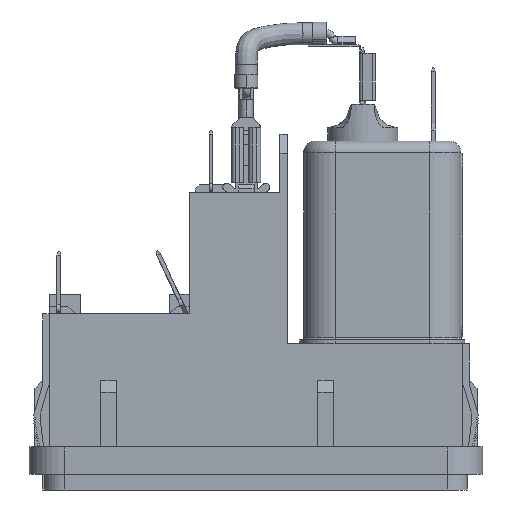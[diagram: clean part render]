
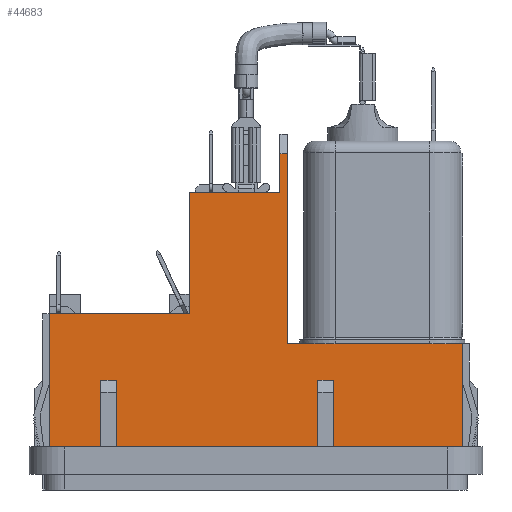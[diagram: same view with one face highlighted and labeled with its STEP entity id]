
A CAD part, left-side view. The second image highlights one B-rep face of the part: STEP entity #44683.
In plain terms, the highlighted planar face has unit normal (-1, 0, 0).
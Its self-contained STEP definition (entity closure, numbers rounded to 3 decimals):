
#31406=CARTESIAN_POINT('',(-13.35,8.55,36.0));
#31407=VERTEX_POINT('',#31406);
#31408=CARTESIAN_POINT('',(-13.35,-3.05,36.0));
#31409=VERTEX_POINT('',#31408);
#31410=CARTESIAN_POINT('',(-13.35,8.55,36.0));
#31411=DIRECTION('',(0.0,-1.0,0.0));
#31412=VECTOR('',#31411,11.6);
#31413=LINE('',#31410,#31412);
#31414=EDGE_CURVE('',#31407,#31409,#31413,.T.);
#33040=CARTESIAN_POINT('',(-13.35,-7.4,16.7));
#33041=VERTEX_POINT('',#33040);
#33042=CARTESIAN_POINT('',(-13.35,-7.748,16.7));
#33043=VERTEX_POINT('',#33042);
#33044=CARTESIAN_POINT('',(-13.35,-7.4,16.7));
#33045=DIRECTION('',(0.0,-1.0,0.0));
#33046=VECTOR('',#33045,0.348);
#33047=LINE('',#33044,#33046);
#33048=EDGE_CURVE('',#33041,#33043,#33047,.T.);
#33067=CARTESIAN_POINT('',(-13.35,-24.552,16.7));
#33068=VERTEX_POINT('',#33067);
#33076=CARTESIAN_POINT('',(-13.35,-24.9,16.7));
#33077=VERTEX_POINT('',#33076);
#33078=CARTESIAN_POINT('',(-13.35,-24.552,16.7));
#33079=DIRECTION('',(0.0,-1.0,0.0));
#33080=VECTOR('',#33079,0.348);
#33081=LINE('',#33078,#33080);
#33082=EDGE_CURVE('',#33068,#33077,#33081,.T.);
#35177=CARTESIAN_POINT('',(-13.35,-10.25,16.7));
#35178=VERTEX_POINT('',#35177);
#35179=CARTESIAN_POINT('',(-13.35,-7.748,16.7));
#35180=DIRECTION('',(0.0,-1.0,0.0));
#35181=VECTOR('',#35180,2.502);
#35182=LINE('',#35179,#35181);
#35183=EDGE_CURVE('',#33043,#35178,#35182,.T.);
#35238=CARTESIAN_POINT('',(-13.35,-4.05,16.7));
#35239=VERTEX_POINT('',#35238);
#35246=CARTESIAN_POINT('',(-13.35,-4.05,16.7));
#35247=DIRECTION('',(0.0,-1.0,0.0));
#35248=VECTOR('',#35247,3.35);
#35249=LINE('',#35246,#35248);
#35250=EDGE_CURVE('',#35239,#33041,#35249,.T.);
#35293=CARTESIAN_POINT('',(-13.35,-26.45,16.7));
#35294=VERTEX_POINT('',#35293);
#35295=CARTESIAN_POINT('',(-13.35,-24.9,16.7));
#35296=DIRECTION('',(0.0,-1.0,0.0));
#35297=VECTOR('',#35296,1.55);
#35298=LINE('',#35295,#35297);
#35299=EDGE_CURVE('',#33077,#35294,#35298,.T.);
#35397=CARTESIAN_POINT('',(-13.35,-22.05,16.7));
#35398=VERTEX_POINT('',#35397);
#35406=CARTESIAN_POINT('',(-13.35,-22.05,16.7));
#35407=DIRECTION('',(0.0,-1.0,0.0));
#35408=VECTOR('',#35407,2.502);
#35409=LINE('',#35406,#35408);
#35410=EDGE_CURVE('',#35398,#33068,#35409,.T.);
#36211=CARTESIAN_POINT('',(-13.35,8.55,20.5));
#36212=VERTEX_POINT('',#36211);
#36219=CARTESIAN_POINT('',(-13.35,8.55,20.5));
#36220=DIRECTION('',(0.0,0.0,1.0));
#36221=VECTOR('',#36220,15.5);
#36222=LINE('',#36219,#36221);
#36223=EDGE_CURVE('',#36212,#31407,#36222,.T.);
#36386=CARTESIAN_POINT('',(-13.35,26.45,20.5));
#36387=VERTEX_POINT('',#36386);
#36394=CARTESIAN_POINT('',(-13.35,8.55,20.5));
#36395=DIRECTION('',(0.0,1.0,0.0));
#36396=VECTOR('',#36395,17.9);
#36397=LINE('',#36394,#36396);
#36398=EDGE_CURVE('',#36212,#36387,#36397,.T.);
#43075=CARTESIAN_POINT('',(-13.35,19.85,12.));
#43076=VERTEX_POINT('',#43075);
#43093=CARTESIAN_POINT('',(-13.35,17.85,12.));
#43094=VERTEX_POINT('',#43093);
#43101=CARTESIAN_POINT('',(-13.35,19.85,12.));
#43102=DIRECTION('',(0.0,-1.0,0.0));
#43103=VECTOR('',#43102,2.0);
#43104=LINE('',#43101,#43103);
#43105=EDGE_CURVE('',#43076,#43094,#43104,.T.);
#43124=CARTESIAN_POINT('',(-13.35,17.85,3.5));
#43125=VERTEX_POINT('',#43124);
#43132=CARTESIAN_POINT('',(-13.35,17.85,12.0));
#43133=DIRECTION('',(0.0,0.0,-1.0));
#43134=VECTOR('',#43133,8.5);
#43135=LINE('',#43132,#43134);
#43136=EDGE_CURVE('',#43094,#43125,#43135,.T.);
#43146=CARTESIAN_POINT('',(-13.35,-7.9,12.));
#43147=VERTEX_POINT('',#43146);
#43164=CARTESIAN_POINT('',(-13.35,-9.9,12.));
#43165=VERTEX_POINT('',#43164);
#43172=CARTESIAN_POINT('',(-13.35,-7.9,12.));
#43173=DIRECTION('',(0.0,-1.0,0.0));
#43174=VECTOR('',#43173,2.0);
#43175=LINE('',#43172,#43174);
#43176=EDGE_CURVE('',#43147,#43165,#43175,.T.);
#43195=CARTESIAN_POINT('',(-13.35,-9.9,3.5));
#43196=VERTEX_POINT('',#43195);
#43203=CARTESIAN_POINT('',(-13.35,-9.9,12.0));
#43204=DIRECTION('',(0.0,0.0,-1.0));
#43205=VECTOR('',#43204,8.5);
#43206=LINE('',#43203,#43205);
#43207=EDGE_CURVE('',#43165,#43196,#43206,.T.);
#43530=CARTESIAN_POINT('',(-13.35,-7.9,3.5));
#43531=VERTEX_POINT('',#43530);
#43532=CARTESIAN_POINT('',(-13.35,-7.9,3.5));
#43533=DIRECTION('',(0.0,0.0,1.0));
#43534=VECTOR('',#43533,8.5);
#43535=LINE('',#43532,#43534);
#43536=EDGE_CURVE('',#43531,#43147,#43535,.T.);
#43578=CARTESIAN_POINT('',(-13.35,19.85,3.5));
#43579=VERTEX_POINT('',#43578);
#43580=CARTESIAN_POINT('',(-13.35,19.85,3.5));
#43581=DIRECTION('',(0.0,0.0,1.0));
#43582=VECTOR('',#43581,8.5);
#43583=LINE('',#43580,#43582);
#43584=EDGE_CURVE('',#43579,#43076,#43583,.T.);
#43905=CARTESIAN_POINT('',(-13.35,-26.45,3.5));
#43906=VERTEX_POINT('',#43905);
#43913=CARTESIAN_POINT('',(-13.35,-26.45,3.5));
#43914=DIRECTION('',(0.0,1.0,0.0));
#43915=VECTOR('',#43914,16.55);
#43916=LINE('',#43913,#43915);
#43917=EDGE_CURVE('',#43906,#43196,#43916,.T.);
#43922=CARTESIAN_POINT('',(-13.35,-7.9,3.5));
#43923=DIRECTION('',(0.0,1.0,0.0));
#43924=VECTOR('',#43923,25.75);
#43925=LINE('',#43922,#43924);
#43926=EDGE_CURVE('',#43531,#43125,#43925,.T.);
#43931=CARTESIAN_POINT('',(-13.35,26.45,3.5));
#43932=VERTEX_POINT('',#43931);
#43933=CARTESIAN_POINT('',(-13.35,19.85,3.5));
#43934=DIRECTION('',(0.0,1.0,0.0));
#43935=VECTOR('',#43934,6.6);
#43936=LINE('',#43933,#43935);
#43937=EDGE_CURVE('',#43579,#43932,#43936,.T.);
#44566=CARTESIAN_POINT('',(-13.35,-4.05,41.0));
#44567=VERTEX_POINT('',#44566);
#44574=CARTESIAN_POINT('',(-13.35,-4.05,41.0));
#44575=DIRECTION('',(0.0,0.0,-1.0));
#44576=VECTOR('',#44575,24.3);
#44577=LINE('',#44574,#44576);
#44578=EDGE_CURVE('',#44567,#35239,#44577,.T.);
#44599=CARTESIAN_POINT('',(-13.35,-3.05,41.0));
#44600=VERTEX_POINT('',#44599);
#44607=CARTESIAN_POINT('',(-13.35,-3.05,41.0));
#44608=DIRECTION('',(0.0,-1.0,0.0));
#44609=VECTOR('',#44608,1.);
#44610=LINE('',#44607,#44609);
#44611=EDGE_CURVE('',#44600,#44567,#44610,.T.);
#44616=CARTESIAN_POINT('',(-13.35,-26.45,3.5));
#44617=DIRECTION('',(-1.0,0.0,0.0));
#44618=DIRECTION('',(0.0,0.0,1.0));
#44619=AXIS2_PLACEMENT_3D('',#44616,#44617,#44618);
#44620=PLANE('',#44619);
#44621=ORIENTED_EDGE('',*,*,#43207,.T.);
#44622=ORIENTED_EDGE('',*,*,#43917,.F.);
#44623=CARTESIAN_POINT('',(-13.35,-26.45,3.5));
#44624=DIRECTION('',(0.0,0.0,1.0));
#44625=VECTOR('',#44624,13.2);
#44626=LINE('',#44623,#44625);
#44627=EDGE_CURVE('',#43906,#35294,#44626,.T.);
#44628=ORIENTED_EDGE('',*,*,#44627,.T.);
#44629=ORIENTED_EDGE('',*,*,#35299,.F.);
#44630=ORIENTED_EDGE('',*,*,#33082,.F.);
#44631=ORIENTED_EDGE('',*,*,#35410,.F.);
#44632=CARTESIAN_POINT('',(-13.35,-22.05,18.7));
#44633=VERTEX_POINT('',#44632);
#44634=CARTESIAN_POINT('',(-13.35,-22.05,18.7));
#44635=DIRECTION('',(0.0,0.0,-1.0));
#44636=VECTOR('',#44635,2.);
#44637=LINE('',#44634,#44636);
#44638=EDGE_CURVE('',#44633,#35398,#44637,.T.);
#44639=ORIENTED_EDGE('',*,*,#44638,.F.);
#44640=CARTESIAN_POINT('',(-13.35,-10.25,18.7));
#44641=VERTEX_POINT('',#44640);
#44642=CARTESIAN_POINT('',(-13.35,-10.25,18.7));
#44643=DIRECTION('',(0.0,-1.0,0.0));
#44644=VECTOR('',#44643,11.8);
#44645=LINE('',#44642,#44644);
#44646=EDGE_CURVE('',#44641,#44633,#44645,.T.);
#44647=ORIENTED_EDGE('',*,*,#44646,.F.);
#44648=CARTESIAN_POINT('',(-13.35,-10.25,16.7));
#44649=DIRECTION('',(0.0,0.0,1.0));
#44650=VECTOR('',#44649,2.0);
#44651=LINE('',#44648,#44650);
#44652=EDGE_CURVE('',#35178,#44641,#44651,.T.);
#44653=ORIENTED_EDGE('',*,*,#44652,.F.);
#44654=ORIENTED_EDGE('',*,*,#35183,.F.);
#44655=ORIENTED_EDGE('',*,*,#33048,.F.);
#44656=ORIENTED_EDGE('',*,*,#35250,.F.);
#44657=ORIENTED_EDGE('',*,*,#44578,.F.);
#44658=ORIENTED_EDGE('',*,*,#44611,.F.);
#44659=CARTESIAN_POINT('',(-13.35,-3.05,36.));
#44660=DIRECTION('',(0.0,0.0,1.0));
#44661=VECTOR('',#44660,5.);
#44662=LINE('',#44659,#44661);
#44663=EDGE_CURVE('',#31409,#44600,#44662,.T.);
#44664=ORIENTED_EDGE('',*,*,#44663,.F.);
#44665=ORIENTED_EDGE('',*,*,#31414,.F.);
#44666=ORIENTED_EDGE('',*,*,#36223,.F.);
#44667=ORIENTED_EDGE('',*,*,#36398,.T.);
#44668=CARTESIAN_POINT('',(-13.35,26.45,3.5));
#44669=DIRECTION('',(0.0,0.0,1.0));
#44670=VECTOR('',#44669,17.);
#44671=LINE('',#44668,#44670);
#44672=EDGE_CURVE('',#43932,#36387,#44671,.T.);
#44673=ORIENTED_EDGE('',*,*,#44672,.F.);
#44674=ORIENTED_EDGE('',*,*,#43937,.F.);
#44675=ORIENTED_EDGE('',*,*,#43584,.T.);
#44676=ORIENTED_EDGE('',*,*,#43105,.T.);
#44677=ORIENTED_EDGE('',*,*,#43136,.T.);
#44678=ORIENTED_EDGE('',*,*,#43926,.F.);
#44679=ORIENTED_EDGE('',*,*,#43536,.T.);
#44680=ORIENTED_EDGE('',*,*,#43176,.T.);
#44681=EDGE_LOOP('',(#44621,#44622,#44628,#44629,#44630,#44631,#44639,#44647,#44653,#44654,#44655,#44656,#44657,#44658,#44664,#44665,#44666,#44667,#44673,#44674,#44675,#44676,#44677,#44678,#44679,#44680));
#44682=FACE_OUTER_BOUND('',#44681,.T.);
#44683=ADVANCED_FACE('',(#44682),#44620,.T.);
